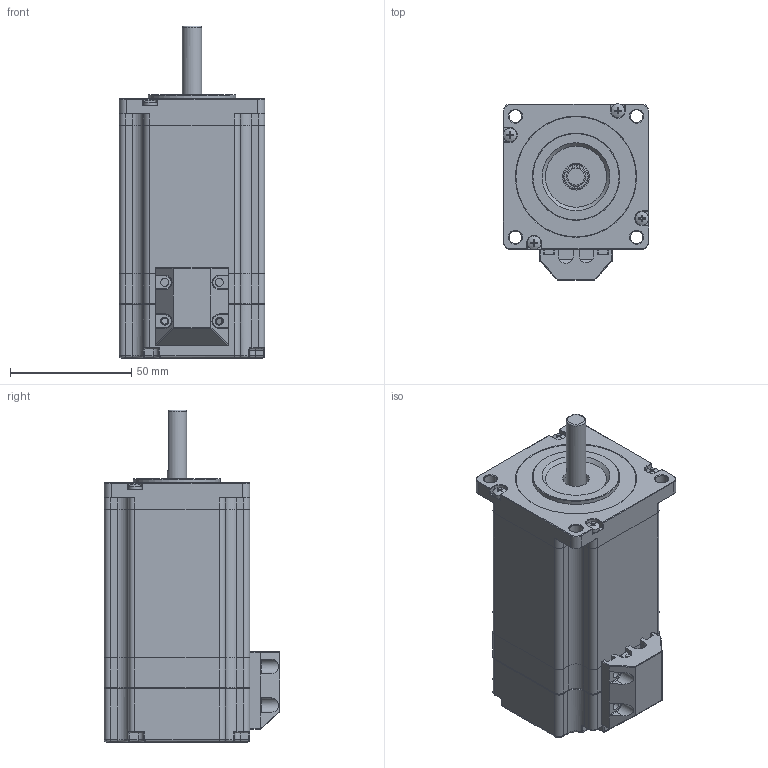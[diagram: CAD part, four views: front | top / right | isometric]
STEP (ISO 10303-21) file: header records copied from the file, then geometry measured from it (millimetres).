
FILE_DESCRIPTION (( 'STEP AP203' ), '1' );
FILE_NAME ('YK260EC86E1-KZ01.STEP', '2018-10-11T03:35:44', ( '' ), ( '' ), 'SwSTEP 2.0', 'SolidWorks 2014', '' );
FILE_SCHEMA (( 'CONFIG_CONTROL_DESIGN' ));
Length unit declared in the file: millimetre
Products named in the file (18): YK260EC 綴裔; YK260EC 隅赽; YK260萇儂晤鎢ん欶; YK260EC 粣; YK260EC86E1-KZ01; 260萇儂萇擢揤啣; YK260EC ヶ裔; YK260EC 坋趼羞攫芛蹟隊
Assembly tree (10 placements, depth 2):
  YK260EC 隅赽
  YK260萇儂晤鎢ん欶
  YK260EC 粣
  YK260EC86E1-KZ01
    YK260EC ヶ裔
    YK260EC 綴裔
    YK260EC 隅赽
    YK260EC 粣
    YK260EC 坋趼羞攫芛蹟隊  x4
    YK260萇儂晤鎢ん欶
    260萇儂萇擢揤啣
  260萇儂萇擢揤啣
Bounding box: 60.1 x 72.55 x 137 mm (x, y, z)
Volume: 199115.2 mm3; surface area: 81904.7 mm2
Topology: 10 solids, 10 shells, 1563 faces, 3419 edges, 1882 vertices
Faces by surface type: cone 972, plane 307, cylinder 216, torus 47, bspline 13, sphere 8
Full cylindrical faces by diameter (mm): 2.5 x6, 2.598 x4, 3 x4, 3.2 x8, 3.3 x4, 5.2 x4, 5.6 x4, 8 x2, 10 x1, 11 x2, 22 x2, 26 x2, 36 x1, 39 x3, 39.6 x2, 50 x1, 55 x1
Entity records: 23255 total; most frequent: CARTESIAN_POINT 4319, DIRECTION 3767, ORIENTED_EDGE 3136, EDGE_CURVE 1568, AXIS2_PLACEMENT_3D 1483, EDGE_LOOP 1165, VERTEX_POINT 1099, FACE_OUTER_BOUND 846
